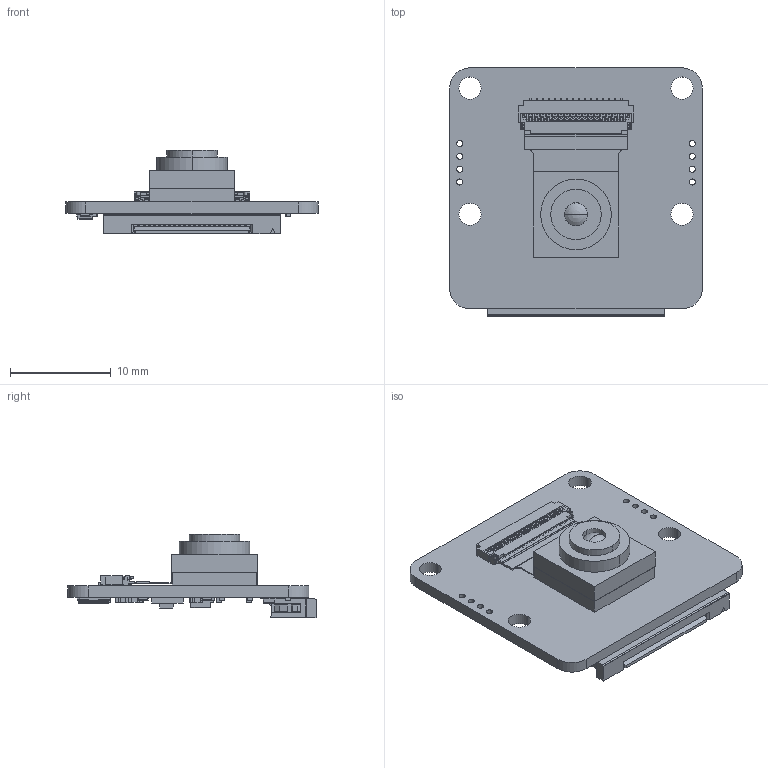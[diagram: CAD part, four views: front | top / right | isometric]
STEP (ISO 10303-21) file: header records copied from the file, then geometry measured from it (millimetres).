
FILE_DESCRIPTION (( 'STEP AP214' ), '1' );
FILE_NAME ('B0413(蚾饜).STEP', '2024-04-08T08:05:10', ( '' ), ( '' ), 'SwSTEP 2.0', 'SolidWorks 2021', '' );
FILE_SCHEMA (( 'AUTOMOTIVE_DESIGN' ));
Length unit declared in the file: millimetre
Products named in the file (3): B0413.step; UC-957_Rev.C1; B0413(蚾饜)
Assembly tree (2 placements, depth 2):
  B0413(蚾饜)
    UC-957_Rev.C1
    B0413.step
Bounding box: 25 x 24.58 x 8.24 mm (x, y, z)
Volume: 1148.2 mm3; surface area: 2887.9 mm2
Topology: 121 solids, 121 shells, 3873 faces, 10435 edges, 6790 vertices
Faces by surface type: plane 3467, cylinder 370, sphere 16, torus 10, bspline 10
Entity records: 162564 total; most frequent: CARTESIAN_POINT 21711, ORIENTED_EDGE 20842, DIRECTION 18825, EDGE_CURVE 10421, LINE 9625, VECTOR 9625, VERTEX_POINT 6788, AXIS2_PLACEMENT_3D 4600
